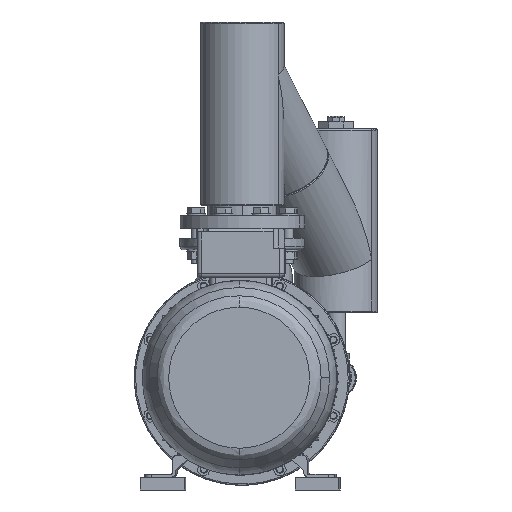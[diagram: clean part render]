
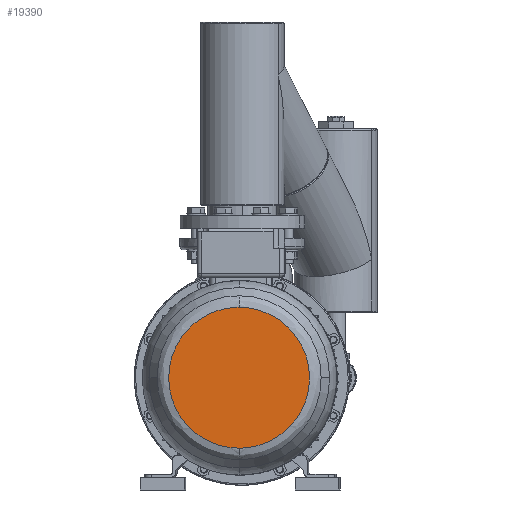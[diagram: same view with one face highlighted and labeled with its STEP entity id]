
A CAD part, front view. The second image highlights one B-rep face of the part: STEP entity #19390.
In plain terms, the highlighted planar face has unit normal (-0.009, -1, 0).
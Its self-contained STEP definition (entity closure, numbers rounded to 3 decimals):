
#18622 = CARTESIAN_POINT ( 'NONE',  ( -168.719, -943.298, -99.945 ) ) ;
#18623 = CARTESIAN_POINT ( 'NONE',  ( 57.137, -945.239, -99.945 ) ) ;
#18625 = CARTESIAN_POINT ( 'NONE',  ( 57.137, -945.239, 125.92 ) ) ;
#18627 = CARTESIAN_POINT ( 'NONE',  ( -168.719, -943.298, 125.92 ) ) ;
#18633 =( BOUNDED_CURVE ( )  B_SPLINE_CURVE ( 3, ( #18627, #18625, #18623, #18622 ),
 .UNSPECIFIED., .F., .T. ) 
 B_SPLINE_CURVE_WITH_KNOTS ( ( 4, 4 ),
 ( 0., 1. ),
 .UNSPECIFIED. ) 
 CURVE ( )  GEOMETRIC_REPRESENTATION_ITEM ( )  RATIONAL_B_SPLINE_CURVE ( ( 1., 0.333, 0.333, 1. ) ) 
 REPRESENTATION_ITEM ( '' )  );
#19390 = ADVANCED_FACE ( 'NONE', ( #90542 ), #90532, .T. ) ;
#33973 = EDGE_CURVE ( 'NONE', #33997, #33998, #102352, .T. ) ;
#33997 = VERTEX_POINT ( 'NONE', #102529 ) ;
#33998 = VERTEX_POINT ( 'NONE', #102527 ) ;
#60135 = ORIENTED_EDGE ( 'NONE', *, *, #33973, .F. ) ;
#66131 = ORIENTED_EDGE ( 'NONE', *, *, #91509, .F. ) ;
#70752 = EDGE_LOOP ( 'NONE', ( #60135, #66131 ) ) ;
#90500 = DIRECTION ( 'NONE',  ( 1., -0.009, 0. ) ) ;
#90501 = DIRECTION ( 'NONE',  ( -0.009, -1., 0. ) ) ;
#90502 = CARTESIAN_POINT ( 'NONE',  ( -168.719, -943.298, 12.988 ) ) ;
#90521 = AXIS2_PLACEMENT_3D ( 'NONE', #90502, #90501, #90500 ) ;
#90532 = PLANE ( 'NONE',  #90521 ) ;
#90542 = FACE_OUTER_BOUND ( 'NONE', #70752, .T. ) ;
#91509 = EDGE_CURVE ( 'NONE', #33998, #33997, #18633, .T. ) ;
#102320 = CARTESIAN_POINT ( 'NONE',  ( -168.719, -943.298, 125.92 ) ) ;
#102323 = CARTESIAN_POINT ( 'NONE',  ( -394.576, -941.357, 125.92 ) ) ;
#102326 = CARTESIAN_POINT ( 'NONE',  ( -394.576, -941.357, -99.945 ) ) ;
#102329 = CARTESIAN_POINT ( 'NONE',  ( -168.719, -943.298, -99.945 ) ) ;
#102352 =( BOUNDED_CURVE ( )  B_SPLINE_CURVE ( 3, ( #102329, #102326, #102323, #102320 ),
 .UNSPECIFIED., .F., .F. ) 
 B_SPLINE_CURVE_WITH_KNOTS ( ( 4, 4 ),
 ( 0., 1. ),
 .UNSPECIFIED. ) 
 CURVE ( )  GEOMETRIC_REPRESENTATION_ITEM ( )  RATIONAL_B_SPLINE_CURVE ( ( 1., 0.333, 0.333, 1. ) ) 
 REPRESENTATION_ITEM ( '' )  );
#102527 = CARTESIAN_POINT ( 'NONE',  ( -168.719, -943.298, 125.92 ) ) ;
#102529 = CARTESIAN_POINT ( 'NONE',  ( -168.719, -943.298, -99.945 ) ) ;
